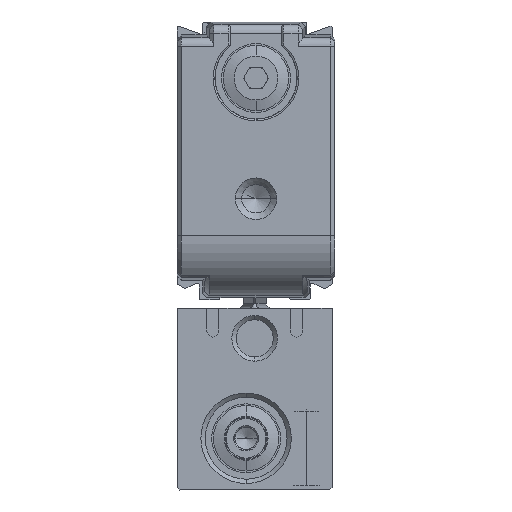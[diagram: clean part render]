
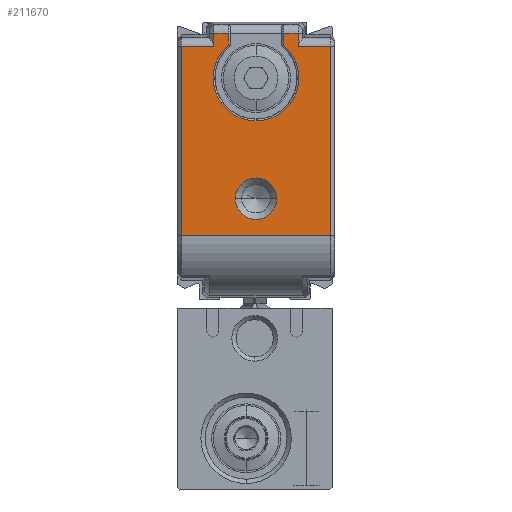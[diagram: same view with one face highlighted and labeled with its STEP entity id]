
A CAD part, left-side view. The second image highlights one B-rep face of the part: STEP entity #211670.
In plain terms, the highlighted planar face has unit normal (-1, 0, 0) as drawn and (0, 0, -1) by its records, which use the part's own axes.
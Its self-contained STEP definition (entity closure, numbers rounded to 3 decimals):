
#194330=CARTESIAN_POINT('',(31.077,22.24,-511.));
#194340=VERTEX_POINT('',#194330);
#194590=CARTESIAN_POINT('',(31.077,35.9,-511.));
#194600=DIRECTION('',(0.,-1.,0.));
#194610=VECTOR('',#194600,1.);
#194620=LINE('',#194590,#194610);
#194630=CARTESIAN_POINT('',(31.077,23.95,-511.));
#194640=VERTEX_POINT('',#194630);
#194650=EDGE_CURVE('',#194640,#194340,#194620,.T.);
#198470=CARTESIAN_POINT('',(7.619,35.8,-511.));
#198480=VERTEX_POINT('',#198470);
#198850=CARTESIAN_POINT('',(29.577,35.8,-511.));
#198860=VERTEX_POINT('',#198850);
#198980=CARTESIAN_POINT('',(18.598,35.8,-511.));
#198990=DIRECTION('',(1.,0.,0.));
#199000=VECTOR('',#198990,1.);
#199010=LINE('',#198980,#199000);
#199020=EDGE_CURVE('',#198480,#198860,#199010,.T.);
#206320=CARTESIAN_POINT('',(29.577,22.24,-511.));
#206330=VERTEX_POINT('',#206320);
#206360=CARTESIAN_POINT('',(29.577,35.9,-511.));
#206370=DIRECTION('',(0.,1.,0.));
#206380=VECTOR('',#206370,1.);
#206390=LINE('',#206360,#206380);
#206400=CARTESIAN_POINT('',(29.577,18.5,-511.));
#206410=VERTEX_POINT('',#206400);
#206420=EDGE_CURVE('',#206410,#206330,#206390,.T.);
#206770=CARTESIAN_POINT('',(29.077,22.24,-511.));
#206780=CARTESIAN_POINT('',(29.494,22.24,-511.));
#206790=CARTESIAN_POINT('',(29.91,22.24,-511.));
#206800=CARTESIAN_POINT('',(30.577,22.24,-511.));
#206810=CARTESIAN_POINT('',(30.827,22.24,-511.));
#206820=CARTESIAN_POINT('',(31.077,22.24,-511.));
#206830=B_SPLINE_CURVE_WITH_KNOTS('',3,(#206770,#206780,#206790,#206800,
#206810,#206820),.UNSPECIFIED.,.F.,.F.,(4,2,4),(38.213,
39.463,40.213),.UNSPECIFIED.);
#206840=EDGE_CURVE('',#206330,#194340,#206830,.T.);
#210500=CARTESIAN_POINT('',(7.619,18.5,
-511.));
#210510=VERTEX_POINT('',#210500);
#210540=CARTESIAN_POINT('',(7.619,35.9,-511.));
#210550=DIRECTION('',(0.,-1.,0.));
#210560=VECTOR('',#210550,1.);
#210570=LINE('',#210540,#210560);
#210580=EDGE_CURVE('',#198480,#210510,#210570,.T.);
#210880=CARTESIAN_POINT('',(16.65,27.15,-511.));
#210890=DIRECTION('',(0.,0.,1.));
#210900=DIRECTION('',(0.,1.,0.));
#210910=AXIS2_PLACEMENT_3D('',#210880,#210890,#210900);
#210920=PLANE('',#210910);
#210930=CARTESIAN_POINT('',(11.9,27.15,-511.));
#210940=DIRECTION('',(0.,0.,1.));
#210950=DIRECTION('',(0.,-1.,0.));
#210960=AXIS2_PLACEMENT_3D('',#210930,#210940,#210950);
#210970=CIRCLE('',#210960,2.4);
#210980=CARTESIAN_POINT('',(11.9,29.55,-511.));
#210990=VERTEX_POINT('',#210980);
#211000=CARTESIAN_POINT('',(11.9,24.75,-511.));
#211010=VERTEX_POINT('',#211000);
#211020=EDGE_CURVE('',#210990,#211010,#210970,.T.);
#211030=ORIENTED_EDGE('',*,*,#211020,.T.);
#211040=EDGE_CURVE('',#211010,#210990,#210970,.T.);
#211050=ORIENTED_EDGE('',*,*,#211040,.T.);
#211060=EDGE_LOOP('',(#211050,#211030));
#211070=FACE_BOUND('',#211060,.T.);
#211080=ORIENTED_EDGE('',*,*,#206420,.F.);
#211090=ORIENTED_EDGE('',*,*,#206840,.F.);
#211100=ORIENTED_EDGE('',*,*,#194650,.T.);
#211110=CARTESIAN_POINT('',(0.15,23.95,-511.));
#211120=DIRECTION('',(-1.,0.,0.));
#211130=VECTOR('',#211120,1.);
#211140=LINE('',#211110,#211130);
#211150=CARTESIAN_POINT('',(29.709,23.95,-511.));
#211160=VERTEX_POINT('',#211150);
#211170=EDGE_CURVE('',#194640,#211160,#211140,.T.);
#211180=ORIENTED_EDGE('',*,*,#211170,.F.);
#211190=CARTESIAN_POINT('',(25.9,27.15,-511.));
#211200=DIRECTION('',(0.,0.,-1.));
#211210=DIRECTION('',(0.,1.,0.));
#211220=AXIS2_PLACEMENT_3D('',#211190,#211200,#211210);
#211230=CIRCLE('',#211220,4.974);
#211240=CARTESIAN_POINT('',(29.709,30.35,-511.));
#211250=VERTEX_POINT('',#211240);
#211260=EDGE_CURVE('',#211160,#211250,#211230,.T.);
#211270=ORIENTED_EDGE('',*,*,#211260,.F.);
#211280=CARTESIAN_POINT('',(0.15,30.35,-511.));
#211290=DIRECTION('',(1.,0.,0.));
#211300=VECTOR('',#211290,1.);
#211310=LINE('',#211280,#211300);
#211320=CARTESIAN_POINT('',(31.077,30.35,-511.));
#211330=VERTEX_POINT('',#211320);
#211340=EDGE_CURVE('',#211250,#211330,#211310,.T.);
#211350=ORIENTED_EDGE('',*,*,#211340,.F.);
#211360=CARTESIAN_POINT('',(31.077,32.06,-511.));
#211370=VERTEX_POINT('',#211360);
#211380=EDGE_CURVE('',#211370,#211330,#194620,.T.);
#211390=ORIENTED_EDGE('',*,*,#211380,.T.);
#211400=CARTESIAN_POINT('',(29.077,32.06,-511.));
#211410=CARTESIAN_POINT('',(29.494,32.06,-511.));
#211420=CARTESIAN_POINT('',(29.91,32.06,-511.));
#211430=CARTESIAN_POINT('',(30.577,32.06,-511.));
#211440=CARTESIAN_POINT('',(30.827,32.06,-511.));
#211450=CARTESIAN_POINT('',(31.077,32.06,-511.));
#211460=B_SPLINE_CURVE_WITH_KNOTS('',3,(#211400,#211410,#211420,#211430,
#211440,#211450),.UNSPECIFIED.,.F.,.F.,(4,2,4),(38.213,
39.463,40.213),.UNSPECIFIED.);
#211470=CARTESIAN_POINT('',(29.577,32.06,-511.));
#211480=VERTEX_POINT('',#211470);
#211490=EDGE_CURVE('',#211480,#211370,#211460,.T.);
#211500=ORIENTED_EDGE('',*,*,#211490,.T.);
#211510=CARTESIAN_POINT('',(29.577,35.9,-511.));
#211520=DIRECTION('',(0.,1.,0.));
#211530=VECTOR('',#211520,1.);
#211540=LINE('',#211510,#211530);
#211550=EDGE_CURVE('',#211480,#198860,#211540,.T.);
#211560=ORIENTED_EDGE('',*,*,#211550,.F.);
#211570=ORIENTED_EDGE('',*,*,#199020,.T.);
#211580=ORIENTED_EDGE('',*,*,#210580,.F.);
#211590=CARTESIAN_POINT('',(18.598,18.5,-511.));
#211600=DIRECTION('',(1.,0.,0.));
#211610=VECTOR('',#211600,1.);
#211620=LINE('',#211590,#211610);
#211630=EDGE_CURVE('',#210510,#206410,#211620,.T.);
#211640=ORIENTED_EDGE('',*,*,#211630,.F.);
#211650=EDGE_LOOP('',(#211640,#211580,#211570,#211560,#211500,#211390,
#211350,#211270,#211180,#211100,#211090,#211080));
#211660=FACE_OUTER_BOUND('',#211650,.T.);
#211670=ADVANCED_FACE('',(#211070,#211660),#210920,.F.);
